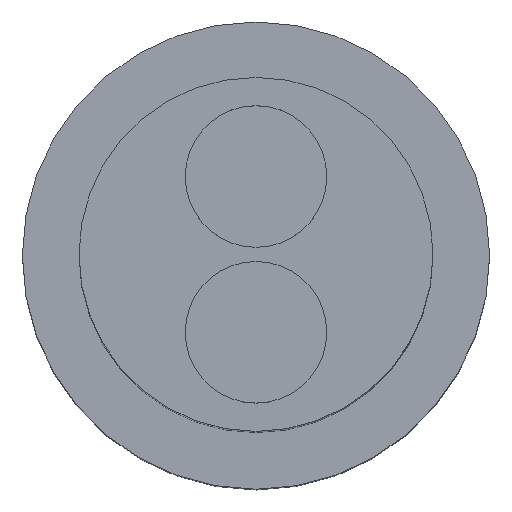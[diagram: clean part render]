
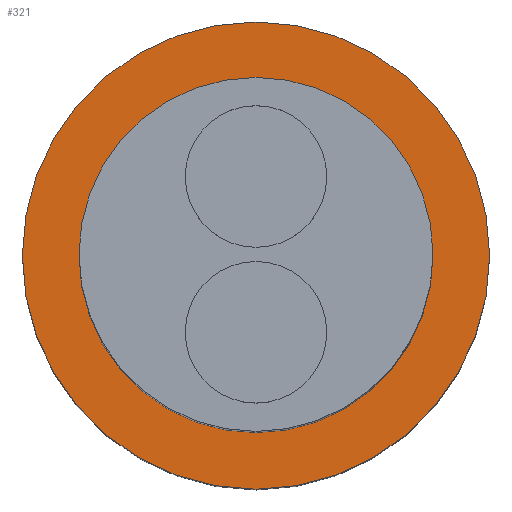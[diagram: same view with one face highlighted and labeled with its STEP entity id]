
A CAD part, top view. The second image highlights one B-rep face of the part: STEP entity #321.
In plain terms, the highlighted planar face has unit normal (0, 0, 1) as drawn and (-1, 0, 0) by its records, which use the part's own axes.
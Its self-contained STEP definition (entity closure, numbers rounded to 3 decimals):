
#25 = DIRECTION ( 'NONE',  ( 0., 0., -1. ) ) ;
#26 = DIRECTION ( 'NONE',  ( 1., 0., 0. ) ) ;
#27 = CARTESIAN_POINT ( 'NONE',  ( 5., 0., 0. ) ) ;
#28 = AXIS2_PLACEMENT_3D ( 'NONE', #27, #26, #25 ) ;
#29 = CIRCLE ( 'NONE', #28, 1.25 ) ;
#64 = DIRECTION ( 'NONE',  ( 0., 0., -1. ) ) ;
#65 = DIRECTION ( 'NONE',  ( 1., 0., 0. ) ) ;
#66 = CARTESIAN_POINT ( 'NONE',  ( 5., 0., 0. ) ) ;
#67 = AXIS2_PLACEMENT_3D ( 'NONE', #66, #65, #64 ) ;
#68 = PLANE ( 'NONE',  #67 ) ;
#74 = FACE_OUTER_BOUND ( 'NONE', #414, .T. ) ;
#75 = FACE_BOUND ( 'NONE', #322, .T. ) ;
#77 = DIRECTION ( 'NONE',  ( 0., 0., -1. ) ) ;
#78 = DIRECTION ( 'NONE',  ( 1., 0., 0. ) ) ;
#79 = CARTESIAN_POINT ( 'NONE',  ( 5., 0., 0. ) ) ;
#80 = AXIS2_PLACEMENT_3D ( 'NONE', #79, #78, #77 ) ;
#81 = CIRCLE ( 'NONE', #80, 1.25 ) ;
#126 = DIRECTION ( 'NONE',  ( 0., 0., 1. ) ) ;
#127 = DIRECTION ( 'NONE',  ( -1., 0., 0. ) ) ;
#128 = CARTESIAN_POINT ( 'NONE',  ( 5., 0., 0. ) ) ;
#129 = AXIS2_PLACEMENT_3D ( 'NONE', #128, #127, #126 ) ;
#130 = CIRCLE ( 'NONE', #129, 1.65 ) ;
#266 = VERTEX_POINT ( 'NONE', #482 ) ;
#267 = VERTEX_POINT ( 'NONE', #481 ) ;
#274 = EDGE_CURVE ( 'NONE', #275, #276, #537, .T. ) ;
#275 = VERTEX_POINT ( 'NONE', #538 ) ;
#276 = VERTEX_POINT ( 'NONE', #532 ) ;
#311 = EDGE_CURVE ( 'NONE', #267, #266, #29, .T. ) ;
#321 = ADVANCED_FACE ( 'NONE', ( #75, #74 ), #68, .F. ) ;
#322 = EDGE_LOOP ( 'NONE', ( #412, #413 ) ) ;
#360 = EDGE_CURVE ( 'NONE', #266, #267, #81, .T. ) ;
#412 = ORIENTED_EDGE ( 'NONE', *, *, #360, .T. ) ;
#413 = ORIENTED_EDGE ( 'NONE', *, *, #311, .T. ) ;
#414 = EDGE_LOOP ( 'NONE', ( #415, #417 ) ) ;
#415 = ORIENTED_EDGE ( 'NONE', *, *, #274, .T. ) ;
#417 = ORIENTED_EDGE ( 'NONE', *, *, #418, .T. ) ;
#418 = EDGE_CURVE ( 'NONE', #276, #275, #130, .T. ) ;
#481 = CARTESIAN_POINT ( 'NONE',  ( 5., 0., -1.25 ) ) ;
#482 = CARTESIAN_POINT ( 'NONE',  ( 5., 0., 1.25 ) ) ;
#532 = CARTESIAN_POINT ( 'NONE',  ( 5., 0., -1.65 ) ) ;
#533 = DIRECTION ( 'NONE',  ( 0., 0., 1. ) ) ;
#534 = DIRECTION ( 'NONE',  ( -1., 0., 0. ) ) ;
#535 = CARTESIAN_POINT ( 'NONE',  ( 5., 0., 0. ) ) ;
#536 = AXIS2_PLACEMENT_3D ( 'NONE', #535, #534, #533 ) ;
#537 = CIRCLE ( 'NONE', #536, 1.65 ) ;
#538 = CARTESIAN_POINT ( 'NONE',  ( 5., 0., 1.65 ) ) ;
